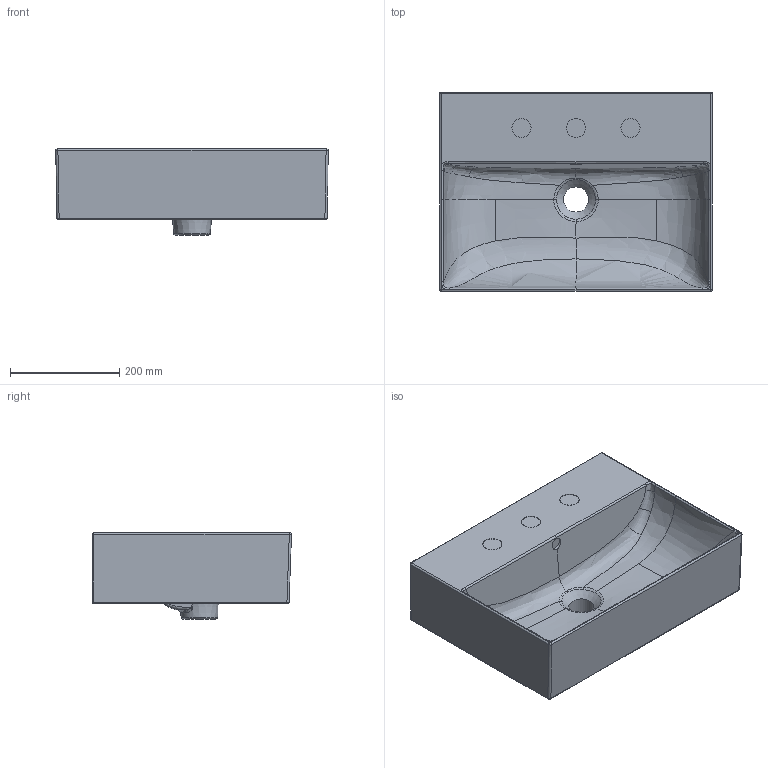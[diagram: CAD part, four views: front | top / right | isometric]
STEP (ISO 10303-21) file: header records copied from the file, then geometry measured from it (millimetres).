
FILE_DESCRIPTION(/* description */ (''),/* implementation_level */ '2;1');
FILE_NAME(/* name */ 'LAVABO_50X36.5_PROTAP_01_20200828.stp',/* time_stamp */ '2020-10-08T13:31:29+02:00',/* author */ (''),/* organization */ (''),/* preprocessor_version */ 'ST-DEVELOPER v16.7',/* originating_system */ 'SIEMENS PLM Software NX 12.0',/* authorisation */ '');
FILE_SCHEMA (('AUTOMOTIVE_DESIGN { 1 0 10303 214 3 1 1 1 }'));
Products named in the file (1): Bera5A889F5Dvfkt
Bounding box: 499.89 x 364.89 x 158.02 mm (x, y, z)
Volume: 8214115.8 mm3; surface area: 774523.9 mm2
Topology: 1 solids, 1 shells, 448 faces, 1095 edges, 646 vertices
Faces by surface type: bspline 273, cylinder 95, plane 45, torus 18, sphere 12, cone 3, extrusion 2
Full cylindrical faces by diameter (mm): 10 x6, 22 x1, 35 x3, 46 x1, 50 x3
Entity records: 43692 total; most frequent: CARTESIAN_POINT 35317, ORIENTED_EDGE 2086, DIRECTION 1159, EDGE_CURVE 1043, VERTEX_POINT 636, B_SPLINE_CURVE_WITH_KNOTS 565, AXIS2_PLACEMENT_3D 503, EDGE_LOOP 493
